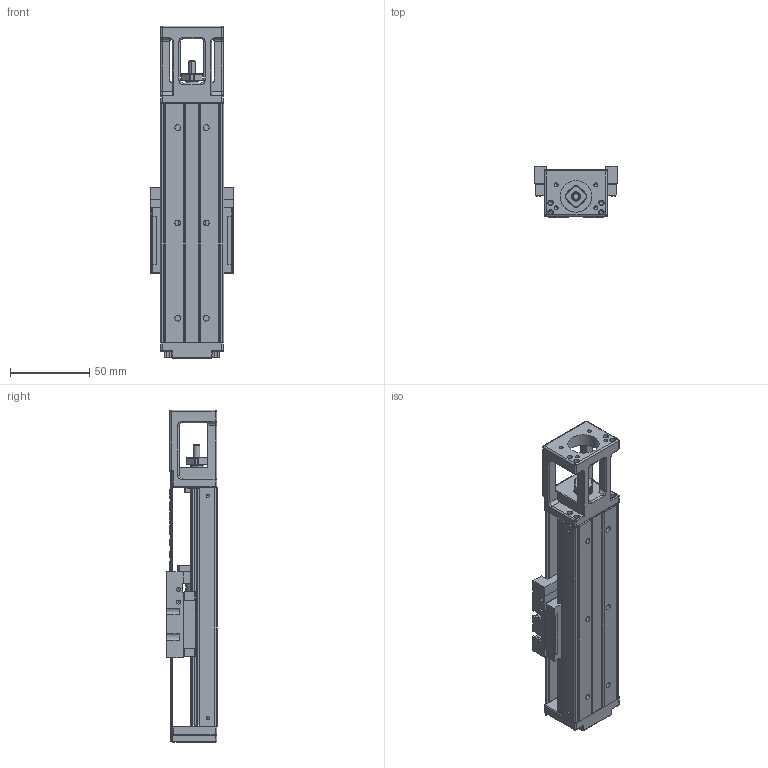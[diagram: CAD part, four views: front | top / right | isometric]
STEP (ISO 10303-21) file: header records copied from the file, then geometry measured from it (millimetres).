
FILE_DESCRIPTION (( 'STEP AP203' ), '1' );
FILE_NAME ('hkk40-150a1f0c.STEP', '2016-11-03T01:28:11', ( 'Windows' ), ( 'Microsoft' ), 'SwSTEP 2.0', 'SolidWorks 2016', '' );
FILE_SCHEMA (( 'CONFIG_CONTROL_DESIGN' ));
Length unit declared in the file: millimetre
Products named in the file (3): 掛极; 40賑怢郪; hkk40-150a1f0c
Assembly tree (2 placements, depth 2):
  hkk40-150a1f0c
    掛极
    40賑怢郪
Bounding box: 52 x 32 x 209 mm (x, y, z)
Volume: 121413.7 mm3; surface area: 74927.2 mm2
Topology: 15 solids, 15 shells, 1147 faces, 3005 edges, 1814 vertices
Faces by surface type: cylinder 441, plane 361, cone 211, bspline 102, torus 22, sphere 10
Entity records: 46638 total; most frequent: CARTESIAN_POINT 19360, ORIENTED_EDGE 5762, DIRECTION 5306, EDGE_CURVE 2881, AXIS2_PLACEMENT_3D 1885, VERTEX_POINT 1814, LINE 1536, VECTOR 1536
